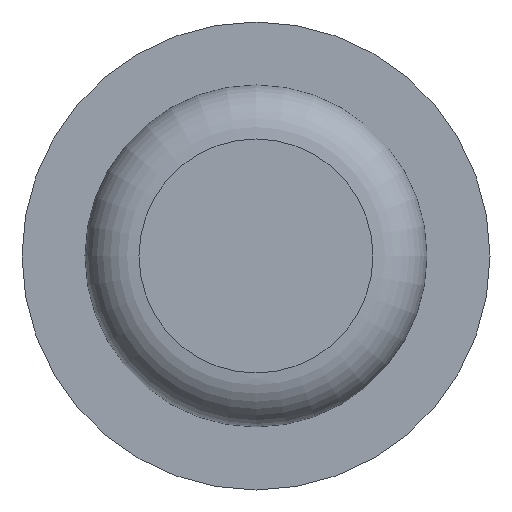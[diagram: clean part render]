
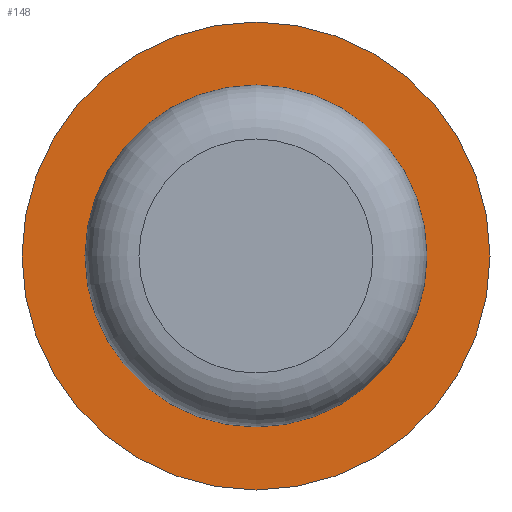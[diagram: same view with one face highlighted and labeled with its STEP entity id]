
A CAD part, front view. The second image highlights one B-rep face of the part: STEP entity #148.
In plain terms, the highlighted planar face has unit normal (0, -1, 0).
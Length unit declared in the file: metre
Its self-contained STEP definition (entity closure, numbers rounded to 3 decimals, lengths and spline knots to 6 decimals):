
#39=ORIENTED_EDGE('',*,*,#73,.F.);
#40=ORIENTED_EDGE('',*,*,#74,.T.);
#73=EDGE_CURVE('',#90,#90,#103,.T.);
#74=EDGE_CURVE('',#91,#91,#104,.T.);
#90=VERTEX_POINT('',#237);
#91=VERTEX_POINT('',#239);
#103=CIRCLE('',#173,0.00475);
#104=CIRCLE('',#174,0.0065);
#108=EDGE_LOOP('',(#39));
#109=EDGE_LOOP('',(#40));
#124=FACE_BOUND('',#108,.T.);
#125=FACE_BOUND('',#109,.T.);
#140=PLANE('',#172);
#148=ADVANCED_FACE('',(#124,#125),#140,.T.);
#172=AXIS2_PLACEMENT_3D('',#235,#190,#191);
#173=AXIS2_PLACEMENT_3D('',#236,#192,#193);
#174=AXIS2_PLACEMENT_3D('',#238,#194,#195);
#190=DIRECTION('',(0.,-1.,0.));
#191=DIRECTION('',(1.,0.,0.));
#192=DIRECTION('',(0.,-1.,0.));
#193=DIRECTION('',(0.,0.,-1.));
#194=DIRECTION('',(0.,-1.,0.));
#195=DIRECTION('',(0.,0.,-1.));
#235=CARTESIAN_POINT('',(0.005,-0.001,0.005));
#236=CARTESIAN_POINT('',(0.005,-0.001,0.005));
#237=CARTESIAN_POINT('',(0.005,-0.001,0.00025));
#238=CARTESIAN_POINT('',(0.005,-0.001,0.005));
#239=CARTESIAN_POINT('',(0.005,-0.001,-0.0015));
